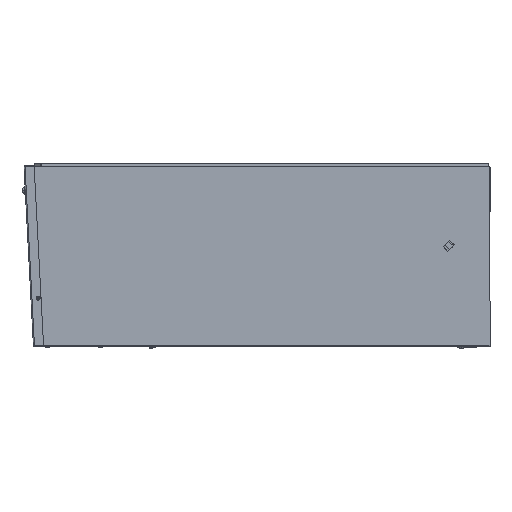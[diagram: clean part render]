
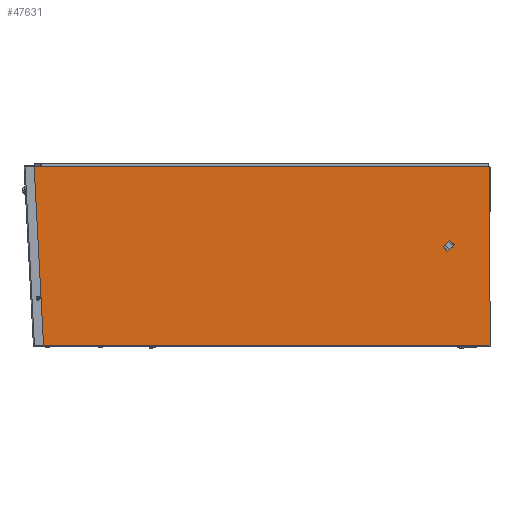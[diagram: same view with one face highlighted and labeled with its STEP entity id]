
A CAD part, left-side view. The second image highlights one B-rep face of the part: STEP entity #47631.
In plain terms, the highlighted planar face has unit normal (-1, 0, 0).
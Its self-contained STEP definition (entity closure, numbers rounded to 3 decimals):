
#5365 = CARTESIAN_POINT ( 'NONE',  ( -147.5, 881.468, -176.636 ) ) ;
#5482 = DIRECTION ( 'NONE',  ( 0., 0., -1. ) ) ;
#6419 = LINE ( 'NONE', #136782, #22429 ) ;
#6887 = DIRECTION ( 'NONE',  ( 0., 0.052, 0.999 ) ) ;
#8408 = VERTEX_POINT ( 'NONE', #30458 ) ;
#13666 = CARTESIAN_POINT ( 'NONE',  ( -147.5, 875.797, -86.69 ) ) ;
#16078 = EDGE_CURVE ( 'NONE', #43407, #26715, #174823, .T. ) ;
#18161 = CARTESIAN_POINT ( 'NONE',  ( -147.5, -17.578, 175.5 ) ) ;
#18225 = CARTESIAN_POINT ( 'NONE',  ( -147.5, 74.952, 17.807 ) ) ;
#20041 = EDGE_LOOP ( 'NONE', ( #59044, #144454, #184537, #165760 ) ) ;
#21251 = CARTESIAN_POINT ( 'NONE',  ( -147.5, 880.191, -200.993 ) ) ;
#22429 = VECTOR ( 'NONE', #63924, 1000. ) ;
#23488 = DIRECTION ( 'NONE',  ( 0., 0., -1. ) ) ;
#24430 = FACE_BOUND ( 'NONE', #20041, .T. ) ;
#26715 = VERTEX_POINT ( 'NONE', #144607 ) ;
#28076 = CARTESIAN_POINT ( 'NONE',  ( -147.5, 70.462, 13.317 ) ) ;
#29820 = CARTESIAN_POINT ( 'NONE',  ( -147.5, -17.578, -176.636 ) ) ;
#30152 = VERTEX_POINT ( 'NONE', #178960 ) ;
#30458 = CARTESIAN_POINT ( 'NONE',  ( -147.5, 897.92, 177.5 ) ) ;
#31572 = CARTESIAN_POINT ( 'NONE',  ( -147.5, -15.578, 177.5 ) ) ;
#33064 = CARTESIAN_POINT ( 'NONE',  ( -147.5, 65.972, 8.827 ) ) ;
#34131 = EDGE_CURVE ( 'NONE', #8408, #30152, #98056, .T. ) ;
#36132 = CARTESIAN_POINT ( 'NONE',  ( -147.5, 875.797, -83.64 ) ) ;
#39779 = AXIS2_PLACEMENT_3D ( 'NONE', #36132, #126235, #5482 ) ;
#40823 = EDGE_CURVE ( 'NONE', #78482, #8408, #6419, .T. ) ;
#41387 = ORIENTED_EDGE ( 'NONE', *, *, #64332, .T. ) ;
#43256 = AXIS2_PLACEMENT_3D ( 'NONE', #179723, #48464, #92568 ) ;
#43407 = VERTEX_POINT ( 'NONE', #18225 ) ;
#43428 = LINE ( 'NONE', #28076, #148857 ) ;
#45278 = EDGE_CURVE ( 'NONE', #122583, #43407, #43428, .T. ) ;
#45340 = VECTOR ( 'NONE', #84558, 1000. ) ;
#47631 = ADVANCED_FACE ( 'NONE', ( #96383, #24430, #169175 ), #155739, .F. ) ;
#48464 = DIRECTION ( 'NONE',  ( -1., 0., 0. ) ) ;
#49167 = AXIS2_PLACEMENT_3D ( 'NONE', #93475, #80012, #137512 ) ;
#49877 = DIRECTION ( 'NONE',  ( 0., 0., 1. ) ) ;
#51063 = VECTOR ( 'NONE', #140253, 1000. ) ;
#53322 = EDGE_LOOP ( 'NONE', ( #108540, #69593, #112086, #173250, #41387, #67413 ) ) ;
#53679 = CARTESIAN_POINT ( 'NONE',  ( -147.5, -17.578, -177.5 ) ) ;
#58104 = VERTEX_POINT ( 'NONE', #29820 ) ;
#59044 = ORIENTED_EDGE ( 'NONE', *, *, #16078, .T. ) ;
#60621 = VERTEX_POINT ( 'NONE', #156276 ) ;
#63924 = DIRECTION ( 'NONE',  ( 0., 1., 0. ) ) ;
#64332 = EDGE_CURVE ( 'NONE', #58104, #171342, #65176, .T. ) ;
#64536 = CIRCLE ( 'NONE', #43256, 2. ) ;
#65176 = LINE ( 'NONE', #53679, #124481 ) ;
#65523 = LINE ( 'NONE', #123996, #51063 ) ;
#66986 = VERTEX_POINT ( 'NONE', #99105 ) ;
#67413 = ORIENTED_EDGE ( 'NONE', *, *, #136343, .T. ) ;
#69502 = DIRECTION ( 'NONE',  ( 0., -0.707, 0.707 ) ) ;
#69593 = ORIENTED_EDGE ( 'NONE', *, *, #34131, .T. ) ;
#78482 = VERTEX_POINT ( 'NONE', #31572 ) ;
#79060 = VERTEX_POINT ( 'NONE', #13666 ) ;
#80012 = DIRECTION ( 'NONE',  ( -1., 0., 0. ) ) ;
#80572 = DIRECTION ( 'NONE',  ( 1., 0., 0. ) ) ;
#84558 = DIRECTION ( 'NONE',  ( 0., -0.707, -0.707 ) ) ;
#92568 = DIRECTION ( 'NONE',  ( 0., 0., -1. ) ) ;
#93475 = CARTESIAN_POINT ( 'NONE',  ( -147.5, 897.92, 175.5 ) ) ;
#93929 = VERTEX_POINT ( 'NONE', #109178 ) ;
#96383 = FACE_BOUND ( 'NONE', #188043, .T. ) ;
#98056 = CIRCLE ( 'NONE', #49167, 2. ) ;
#98936 = LINE ( 'NONE', #187977, #45340 ) ;
#99105 = CARTESIAN_POINT ( 'NONE',  ( -147.5, 881.468, -176.636 ) ) ;
#100009 = DIRECTION ( 'NONE',  ( 0., 0.707, 0.707 ) ) ;
#103099 = ORIENTED_EDGE ( 'NONE', *, *, #168465, .T. ) ;
#108540 = ORIENTED_EDGE ( 'NONE', *, *, #40823, .T. ) ;
#109178 = CARTESIAN_POINT ( 'NONE',  ( -147.5, 875.797, -80.59 ) ) ;
#110288 = DIRECTION ( 'NONE',  ( 0., 0., -1. ) ) ;
#112086 = ORIENTED_EDGE ( 'NONE', *, *, #134718, .F. ) ;
#113164 = CARTESIAN_POINT ( 'NONE',  ( -147.5, 875.797, -83.64 ) ) ;
#114553 = CARTESIAN_POINT ( 'NONE',  ( -147.5, 74.457, 18.302 ) ) ;
#114555 = VECTOR ( 'NONE', #69502, 1000. ) ;
#115818 = ORIENTED_EDGE ( 'NONE', *, *, #142023, .T. ) ;
#121479 = EDGE_CURVE ( 'NONE', #122583, #60621, #65523, .T. ) ;
#122301 = DIRECTION ( 'NONE',  ( 0., 1., 0. ) ) ;
#122583 = VERTEX_POINT ( 'NONE', #33064 ) ;
#123996 = CARTESIAN_POINT ( 'NONE',  ( -147.5, 65.477, 9.322 ) ) ;
#124481 = VECTOR ( 'NONE', #49877, 1000. ) ;
#124890 = AXIS2_PLACEMENT_3D ( 'NONE', #142334, #154794, #23488 ) ;
#126235 = DIRECTION ( 'NONE',  ( 1., 0., 0. ) ) ;
#131062 = LINE ( 'NONE', #5365, #147271 ) ;
#131191 = EDGE_CURVE ( 'NONE', #26715, #60621, #98936, .T. ) ;
#134718 = EDGE_CURVE ( 'NONE', #66986, #30152, #139129, .T. ) ;
#136343 = EDGE_CURVE ( 'NONE', #171342, #78482, #64536, .T. ) ;
#136782 = CARTESIAN_POINT ( 'NONE',  ( -147.5, 431.922, 177.5 ) ) ;
#137512 = DIRECTION ( 'NONE',  ( 0., 0., -1. ) ) ;
#137680 = CIRCLE ( 'NONE', #39779, 3.05 ) ;
#138407 = AXIS2_PLACEMENT_3D ( 'NONE', #113164, #80572, #110288 ) ;
#139129 = LINE ( 'NONE', #21251, #171430 ) ;
#140253 = DIRECTION ( 'NONE',  ( 0., -0.707, 0.707 ) ) ;
#142023 = EDGE_CURVE ( 'NONE', #79060, #93929, #178233, .T. ) ;
#142334 = CARTESIAN_POINT ( 'NONE',  ( -147.5, 431.922, -177.5 ) ) ;
#144454 = ORIENTED_EDGE ( 'NONE', *, *, #131191, .T. ) ;
#144607 = CARTESIAN_POINT ( 'NONE',  ( -147.5, 62.083, 30.677 ) ) ;
#147271 = VECTOR ( 'NONE', #122301, 1000. ) ;
#148857 = VECTOR ( 'NONE', #100009, 1000. ) ;
#154794 = DIRECTION ( 'NONE',  ( 1., 0., 0. ) ) ;
#155739 = PLANE ( 'NONE',  #124890 ) ;
#156276 = CARTESIAN_POINT ( 'NONE',  ( -147.5, 53.103, 21.696 ) ) ;
#165760 = ORIENTED_EDGE ( 'NONE', *, *, #45278, .T. ) ;
#168465 = EDGE_CURVE ( 'NONE', #93929, #79060, #137680, .T. ) ;
#169175 = FACE_OUTER_BOUND ( 'NONE', #53322, .T. ) ;
#171342 = VERTEX_POINT ( 'NONE', #18161 ) ;
#171430 = VECTOR ( 'NONE', #6887, 1000. ) ;
#173250 = ORIENTED_EDGE ( 'NONE', *, *, #182101, .F. ) ;
#174823 = LINE ( 'NONE', #114553, #114555 ) ;
#178233 = CIRCLE ( 'NONE', #138407, 3.05 ) ;
#178960 = CARTESIAN_POINT ( 'NONE',  ( -147.5, 899.917, 175.395 ) ) ;
#179723 = CARTESIAN_POINT ( 'NONE',  ( -147.5, -15.578, 175.5 ) ) ;
#182101 = EDGE_CURVE ( 'NONE', #58104, #66986, #131062, .T. ) ;
#184537 = ORIENTED_EDGE ( 'NONE', *, *, #121479, .F. ) ;
#187977 = CARTESIAN_POINT ( 'NONE',  ( -147.5, 57.593, 26.187 ) ) ;
#188043 = EDGE_LOOP ( 'NONE', ( #115818, #103099 ) ) ;
